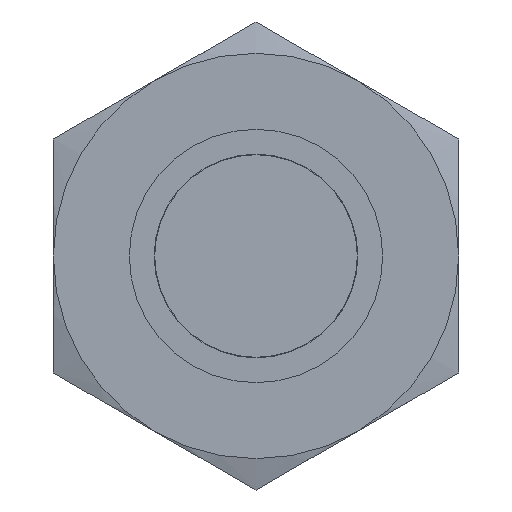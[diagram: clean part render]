
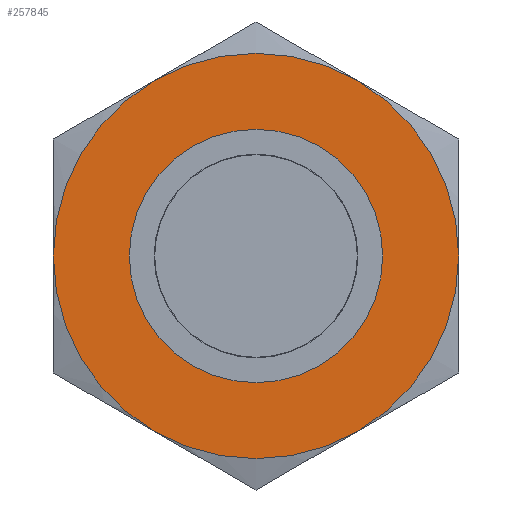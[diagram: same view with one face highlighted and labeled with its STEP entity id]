
A CAD part, left-side view. The second image highlights one B-rep face of the part: STEP entity #257845.
In plain terms, the highlighted planar face has unit normal (-1, 0, 0) as drawn and (0, 0, -1) by its records, which use the part's own axes.
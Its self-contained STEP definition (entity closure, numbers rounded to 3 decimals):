
#257196=CARTESIAN_POINT('',(0.,0.,0.));
#257197=DIRECTION('',(0.,0.,-1.));
#257198=DIRECTION('',(1.,0.,0.));
#257199=AXIS2_PLACEMENT_3D('',#257196,#257197,#257198);
#257204=CARTESIAN_POINT('',(0.,0.,0.));
#257205=DIRECTION('',(0.,0.,-1.));
#257206=DIRECTION('',(0.5,0.866,0.));
#257207=AXIS2_PLACEMENT_3D('',#257204,#257205,#257206);
#257212=CARTESIAN_POINT('',(0.,0.,0.));
#257213=DIRECTION('',(0.,0.,-1.));
#257214=DIRECTION('',(-1.,0.,0.));
#257215=AXIS2_PLACEMENT_3D('',#257212,#257213,#257214);
#257220=CARTESIAN_POINT('',(0.,0.,0.));
#257221=DIRECTION('',(0.,0.,-1.));
#257222=DIRECTION('',(-0.5,-0.866,0.));
#257223=AXIS2_PLACEMENT_3D('',#257220,#257221,#257222);
#257228=CARTESIAN_POINT('',(0.,0.,0.));
#257229=DIRECTION('',(0.,0.,-1.));
#257230=DIRECTION('',(0.,-1.,0.));
#257231=AXIS2_PLACEMENT_3D('',#257228,#257229,#257230);
#257236=CARTESIAN_POINT('',(0.,0.,0.));
#257237=DIRECTION('',(0.,0.,-1.));
#257238=DIRECTION('',(0.,1.,0.));
#257239=AXIS2_PLACEMENT_3D('',#257236,#257237,#257238);
#257244=CARTESIAN_POINT('',(0.,0.,0.));
#257245=DIRECTION('',(0.,0.,-1.));
#257246=DIRECTION('',(0.5,-0.866,0.));
#257247=AXIS2_PLACEMENT_3D('',#257244,#257245,#257246);
#257307=CARTESIAN_POINT('',(0.,0.,0.));
#257308=DIRECTION('',(0.,0.,-1.));
#257309=DIRECTION('',(-0.5,0.866,0.));
#257310=AXIS2_PLACEMENT_3D('',#257307,#257308,#257309);
#257760=CARTESIAN_POINT('',(-2.,-3.464,0.));
#257761=CARTESIAN_POINT('',(-4.,0.,0.));
#257762=VERTEX_POINT('',#257760);
#257763=VERTEX_POINT('',#257761);
#257764=CARTESIAN_POINT('',(-2.,3.464,0.));
#257765=VERTEX_POINT('',#257764);
#257766=CARTESIAN_POINT('',(2.,3.464,0.));
#257767=CARTESIAN_POINT('',(4.,0.,0.));
#257768=VERTEX_POINT('',#257766);
#257769=VERTEX_POINT('',#257767);
#257770=CARTESIAN_POINT('',(2.,-3.464,0.));
#257771=VERTEX_POINT('',#257770);
#257796=CARTESIAN_POINT('',(0.,-2.5,0.));
#257797=CARTESIAN_POINT('',(0.,2.5,0.));
#257798=VERTEX_POINT('',#257796);
#257799=VERTEX_POINT('',#257797);
#257820=CARTESIAN_POINT('',(0.,0.,0.));
#257821=DIRECTION('',(0.,0.,1.));
#257822=DIRECTION('',(1.,0.,0.));
#257823=AXIS2_PLACEMENT_3D('',#257820,#257821,#257822);
#257824=PLANE('',#257823);
#257826=ORIENTED_EDGE('',*,*,#257825,.F.);
#257828=ORIENTED_EDGE('',*,*,#257827,.F.);
#257830=ORIENTED_EDGE('',*,*,#257829,.F.);
#257832=ORIENTED_EDGE('',*,*,#257831,.F.);
#257834=ORIENTED_EDGE('',*,*,#257833,.F.);
#257836=ORIENTED_EDGE('',*,*,#257835,.F.);
#257837=EDGE_LOOP('',(#257826,#257828,#257830,#257832,#257834,#257836));
#257838=FACE_OUTER_BOUND('',#257837,.F.);
#257840=ORIENTED_EDGE('',*,*,#257839,.T.);
#257842=ORIENTED_EDGE('',*,*,#257841,.T.);
#257843=EDGE_LOOP('',(#257840,#257842));
#257844=FACE_BOUND('',#257843,.F.);
#257200=CIRCLE('',#257199,4.);
#257208=CIRCLE('',#257207,4.);
#257216=CIRCLE('',#257215,4.);
#257224=CIRCLE('',#257223,4.);
#257232=CIRCLE('',#257231,2.5);
#257240=CIRCLE('',#257239,2.5);
#257248=CIRCLE('',#257247,4.);
#257311=CIRCLE('',#257310,4.);
#257825=EDGE_CURVE('',#257771,#257762,#257248,.T.);
#257827=EDGE_CURVE('',#257769,#257771,#257200,.T.);
#257829=EDGE_CURVE('',#257768,#257769,#257208,.T.);
#257831=EDGE_CURVE('',#257765,#257768,#257311,.T.);
#257833=EDGE_CURVE('',#257763,#257765,#257216,.T.);
#257835=EDGE_CURVE('',#257762,#257763,#257224,.T.);
#257839=EDGE_CURVE('',#257798,#257799,#257232,.T.);
#257841=EDGE_CURVE('',#257799,#257798,#257240,.T.);
#257845=ADVANCED_FACE('',(#257838,#257844),#257824,.F.);
